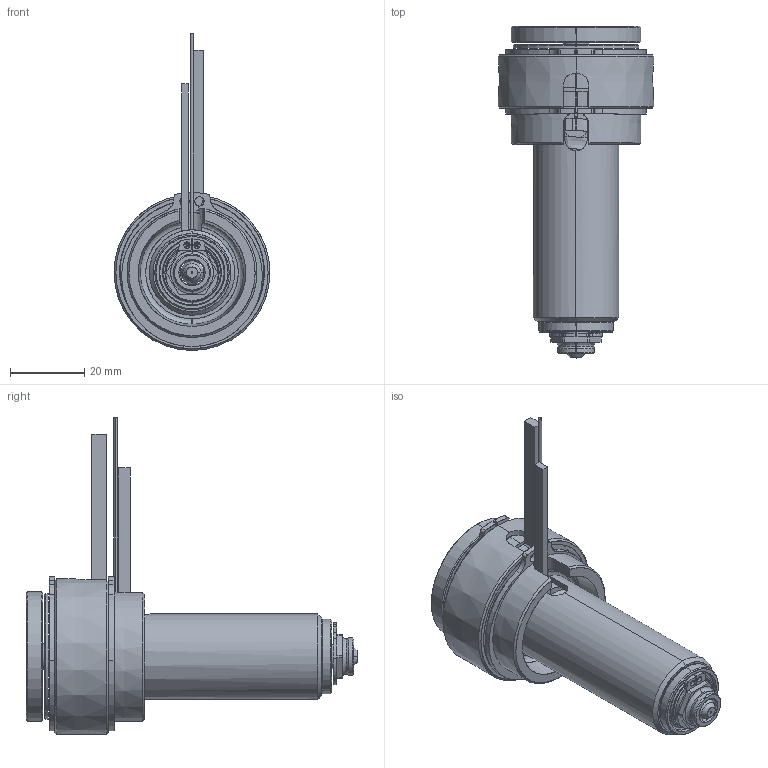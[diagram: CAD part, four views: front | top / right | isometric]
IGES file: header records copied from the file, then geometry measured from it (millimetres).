
Start section: SolidWorks IGES file using analytic representation for surfaces
Global section: file name: C:\Documents and Settings\ws-20\Desktop\TEM\UGER3551-S-A-0 [Øb-0.50  ØC-7.0].IGS; native system: SolidWorks 2012; preprocessor: SolidWorks 2012; author: ws-20; date: 120410.100232; units: millimetre
Bounding box: 42 x 89.4 x 85.4 mm (x, y, z)
Surface area: 31403 mm2 (no closed solid volume)
Topology: 0 solids, 0 shells, 210 faces, 3646 edges, 3646 vertices
Faces by surface type: revolution 134, bspline 76
